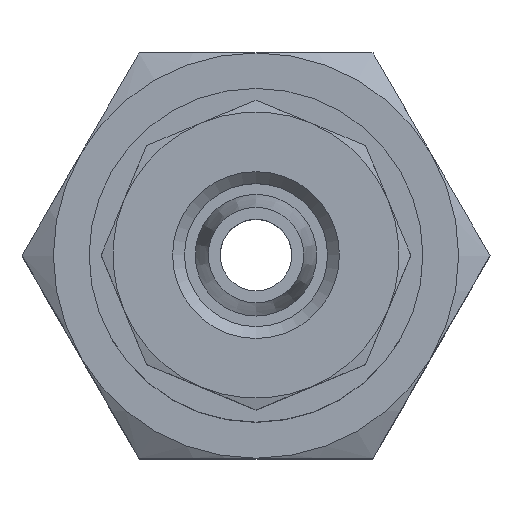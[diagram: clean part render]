
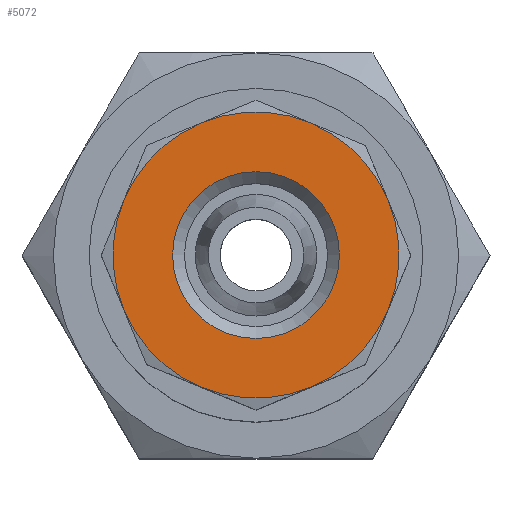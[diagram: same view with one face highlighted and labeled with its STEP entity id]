
A CAD part, top view. The second image highlights one B-rep face of the part: STEP entity #5072.
In plain terms, the highlighted planar face has unit normal (0, 0, 1) as drawn and (0, 1, 0) by its records, which use the part's own axes.
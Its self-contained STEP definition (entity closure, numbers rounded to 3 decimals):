
#2622=ORIENTED_EDGE('',*,*,#3151,.F.);
#2623=ORIENTED_EDGE('',*,*,#3152,.F.);
#2624=ORIENTED_EDGE('',*,*,#3153,.F.);
#2625=ORIENTED_EDGE('',*,*,#3154,.F.);
#2626=ORIENTED_EDGE('',*,*,#3155,.F.);
#2627=ORIENTED_EDGE('',*,*,#3156,.F.);
#2628=ORIENTED_EDGE('',*,*,#3157,.F.);
#2629=ORIENTED_EDGE('',*,*,#3158,.F.);
#2630=ORIENTED_EDGE('',*,*,#3150,.T.);
#2866=CIRCLE('',#4844,3.5);
#2867=CIRCLE('',#4846,6.);
#2868=CIRCLE('',#4847,6.);
#2869=CIRCLE('',#4848,6.);
#2870=CIRCLE('',#4849,6.);
#2871=CIRCLE('',#4850,6.);
#2872=CIRCLE('',#4851,6.);
#2873=CIRCLE('',#4852,6.);
#2874=CIRCLE('',#4853,6.);
#2974=VERTEX_POINT('',#4458);
#2975=VERTEX_POINT('',#4461);
#2976=VERTEX_POINT('',#4462);
#2977=VERTEX_POINT('',#4464);
#2978=VERTEX_POINT('',#4466);
#2979=VERTEX_POINT('',#4468);
#2980=VERTEX_POINT('',#4470);
#2981=VERTEX_POINT('',#4472);
#2982=VERTEX_POINT('',#4474);
#3150=EDGE_CURVE('',#2974,#2974,#2866,.T.);
#3151=EDGE_CURVE('',#2975,#2976,#2867,.T.);
#3152=EDGE_CURVE('',#2977,#2975,#2868,.T.);
#3153=EDGE_CURVE('',#2978,#2977,#2869,.T.);
#3154=EDGE_CURVE('',#2979,#2978,#2870,.T.);
#3155=EDGE_CURVE('',#2980,#2979,#2871,.T.);
#3156=EDGE_CURVE('',#2981,#2980,#2872,.T.);
#3157=EDGE_CURVE('',#2982,#2981,#2873,.T.);
#3158=EDGE_CURVE('',#2976,#2982,#2874,.T.);
#3342=EDGE_LOOP('',(#2622,#2623,#2624,#2625,#2626,#2627,#2628,#2629));
#3343=EDGE_LOOP('',(#2630));
#3506=FACE_BOUND('',#3342,.T.);
#3507=FACE_BOUND('',#3343,.T.);
#3930=DIRECTION('',(0.,-1.,0.));
#3931=DIRECTION('',(0.,0.,-3.5));
#3932=DIRECTION('',(0.,1.,0.));
#3933=DIRECTION('',(1.,0.,0.));
#3934=DIRECTION('',(0.,-1.,0.));
#3935=DIRECTION('',(0.,0.,6.));
#3936=DIRECTION('',(0.,-1.,0.));
#3937=DIRECTION('',(0.,0.,6.));
#3938=DIRECTION('',(0.,-1.,0.));
#3939=DIRECTION('',(0.,0.,6.));
#3940=DIRECTION('',(0.,-1.,0.));
#3941=DIRECTION('',(0.,0.,6.));
#3942=DIRECTION('',(0.,-1.,0.));
#3943=DIRECTION('',(0.,0.,6.));
#3944=DIRECTION('',(0.,-1.,0.));
#3945=DIRECTION('',(0.,0.,6.));
#3946=DIRECTION('',(0.,-1.,0.));
#3947=DIRECTION('',(0.,0.,6.));
#3948=DIRECTION('',(0.,-1.,0.));
#3949=DIRECTION('',(0.,0.,6.));
#4458=CARTESIAN_POINT('',(26.989,26.095,-3.5));
#4459=CARTESIAN_POINT('',(26.989,26.095,0.));
#4460=CARTESIAN_POINT('',(29.285,26.095,5.543));
#4461=CARTESIAN_POINT('',(21.446,26.095,-2.296));
#4462=CARTESIAN_POINT('',(24.693,26.095,-5.543));
#4463=CARTESIAN_POINT('',(26.989,26.095,0.));
#4464=CARTESIAN_POINT('',(21.446,26.095,2.296));
#4465=CARTESIAN_POINT('',(26.989,26.095,0.));
#4466=CARTESIAN_POINT('',(24.693,26.095,5.543));
#4467=CARTESIAN_POINT('',(26.989,26.095,0.));
#4468=CARTESIAN_POINT('',(29.285,26.095,5.543));
#4469=CARTESIAN_POINT('',(26.989,26.095,0.));
#4470=CARTESIAN_POINT('',(32.532,26.095,2.296));
#4471=CARTESIAN_POINT('',(26.989,26.095,0.));
#4472=CARTESIAN_POINT('',(32.532,26.095,-2.296));
#4473=CARTESIAN_POINT('',(26.989,26.095,0.));
#4474=CARTESIAN_POINT('',(29.285,26.095,-5.543));
#4475=CARTESIAN_POINT('',(26.989,26.095,0.));
#4476=CARTESIAN_POINT('',(26.989,26.095,0.));
#4844=AXIS2_PLACEMENT_3D('',#4459,#3930,#3931);
#4845=AXIS2_PLACEMENT_3D('',#4460,#3932,#3933);
#4846=AXIS2_PLACEMENT_3D('',#4463,#3934,#3935);
#4847=AXIS2_PLACEMENT_3D('',#4465,#3936,#3937);
#4848=AXIS2_PLACEMENT_3D('',#4467,#3938,#3939);
#4849=AXIS2_PLACEMENT_3D('',#4469,#3940,#3941);
#4850=AXIS2_PLACEMENT_3D('',#4471,#3942,#3943);
#4851=AXIS2_PLACEMENT_3D('',#4473,#3944,#3945);
#4852=AXIS2_PLACEMENT_3D('',#4475,#3946,#3947);
#4853=AXIS2_PLACEMENT_3D('',#4476,#3948,#3949);
#4984=PLANE('',#4845);
#5072=ADVANCED_FACE('',(#3506,#3507),#4984,.T.);
